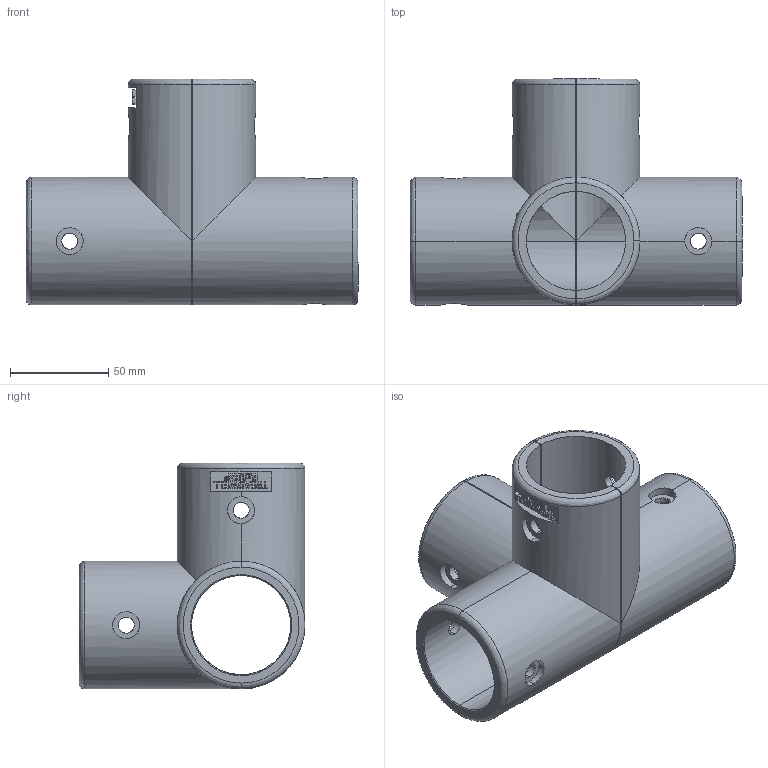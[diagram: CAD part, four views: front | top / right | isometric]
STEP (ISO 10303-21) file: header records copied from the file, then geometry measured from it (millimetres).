
FILE_DESCRIPTION (( 'STEP AP203' ), '1' );
FILE_NAME ('RAILEX STANDARD RXR-CXCJ.STEP', '2021-06-17T10:53:36', ( '' ), ( '' ), 'SwSTEP 2.0', 'SolidWorks 2020', '' );
FILE_SCHEMA (( 'CONFIG_CONTROL_DESIGN' ));
Length unit declared in the file: millimetre
Products named in the file (1): RAILEX STANDARD RXR-CXCJ
Bounding box: 169 x 115 x 115 mm (x, y, z)
Volume: 329591.2 mm3; surface area: 103330 mm2
Topology: 2 solids, 2 shells, 338 faces, 909 edges, 600 vertices
Faces by surface type: plane 190, bspline 90, cylinder 54, cone 4
Entity records: 15015 total; most frequent: CARTESIAN_POINT 7091, ORIENTED_EDGE 1818, DIRECTION 1264, EDGE_CURVE 909, VERTEX_POINT 600, LINE 598, VECTOR 598, EDGE_LOOP 383
